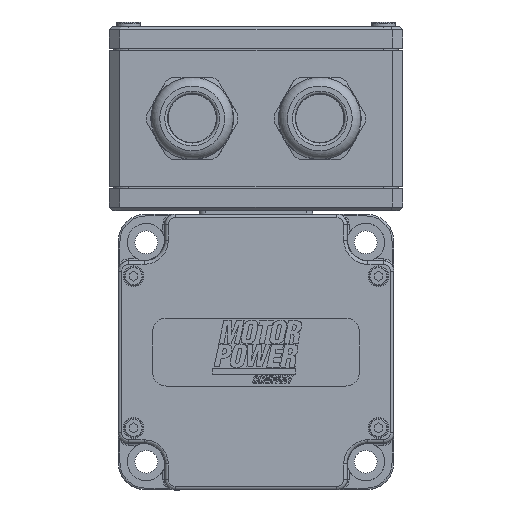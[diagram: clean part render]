
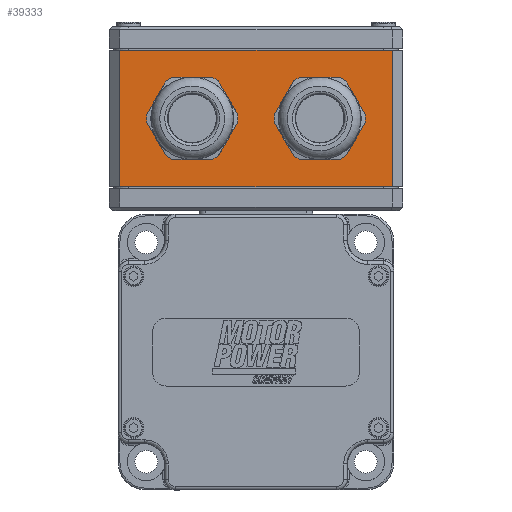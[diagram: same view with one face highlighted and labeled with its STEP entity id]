
A CAD part, front view. The second image highlights one B-rep face of the part: STEP entity #39333.
In plain terms, the highlighted planar face has unit normal (0, -1, 0) as drawn and (1, 0, 0) by its records, which use the part's own axes.
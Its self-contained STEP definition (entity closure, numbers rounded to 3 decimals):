
#2348=LINE('',#76260,#5572);
#2349=LINE('',#76263,#5573);
#2350=LINE('',#76265,#5574);
#2351=LINE('',#76267,#5575);
#5572=VECTOR('',#59659,1000.);
#5573=VECTOR('',#59660,1000.);
#5574=VECTOR('',#59661,1000.);
#5575=VECTOR('',#59662,1000.);
#8508=PLANE('',#53585);
#13732=ORIENTED_EDGE('',*,*,#23196,.T.);
#13733=ORIENTED_EDGE('',*,*,#23197,.T.);
#13734=ORIENTED_EDGE('',*,*,#23198,.T.);
#13735=ORIENTED_EDGE('',*,*,#23199,.T.);
#13736=ORIENTED_EDGE('',*,*,#23200,.F.);
#13737=ORIENTED_EDGE('',*,*,#23201,.T.);
#23196=EDGE_CURVE('',#28254,#28254,#31108,.F.);
#23197=EDGE_CURVE('',#28255,#28255,#31109,.F.);
#23198=EDGE_CURVE('',#28256,#28257,#2348,.T.);
#23199=EDGE_CURVE('',#28257,#28258,#2349,.T.);
#23200=EDGE_CURVE('',#28259,#28258,#2350,.T.);
#23201=EDGE_CURVE('',#28259,#28256,#2351,.T.);
#28254=VERTEX_POINT('',#76257);
#28255=VERTEX_POINT('',#76259);
#28256=VERTEX_POINT('',#76261);
#28257=VERTEX_POINT('',#76262);
#28258=VERTEX_POINT('',#76264);
#28259=VERTEX_POINT('',#76266);
#31108=CIRCLE('',#53586,10.625);
#31109=CIRCLE('',#53587,10.625);
#33282=EDGE_LOOP('',(#13732));
#33283=EDGE_LOOP('',(#13733));
#33284=EDGE_LOOP('',(#13734,#13735,#13736,#13737));
#36337=FACE_BOUND('',#33282,.T.);
#36338=FACE_BOUND('',#33283,.T.);
#36339=FACE_BOUND('',#33284,.T.);
#39333=ADVANCED_FACE('',(#36337,#36338,#36339),#8508,.F.);
#53585=AXIS2_PLACEMENT_3D('',#76255,#59653,#59654);
#53586=AXIS2_PLACEMENT_3D('',#76256,#59655,#59656);
#53587=AXIS2_PLACEMENT_3D('',#76258,#59657,#59658);
#59653=DIRECTION('',(-1.,0.,0.));
#59654=DIRECTION('',(0.,0.,1.));
#59655=DIRECTION('',(1.,0.,0.));
#59656=DIRECTION('',(0.,0.,-1.));
#59657=DIRECTION('',(1.,0.,0.));
#59658=DIRECTION('',(0.,0.,-1.));
#59659=DIRECTION('',(0.,1.,0.));
#59660=DIRECTION('',(0.,0.,1.));
#59661=DIRECTION('',(0.,1.,0.));
#59662=DIRECTION('',(0.,0.,-1.));
#76255=CARTESIAN_POINT('',(42.5,-42.5,39.5));
#76256=CARTESIAN_POINT('',(42.5,18.5,19.75));
#76257=CARTESIAN_POINT('',(42.5,18.5,9.125));
#76258=CARTESIAN_POINT('',(42.5,-18.5,19.75));
#76259=CARTESIAN_POINT('',(42.5,-18.5,9.125));
#76260=CARTESIAN_POINT('',(42.5,-42.5,0.));
#76261=CARTESIAN_POINT('',(42.5,-39.5,0.));
#76262=CARTESIAN_POINT('',(42.5,39.5,0.));
#76263=CARTESIAN_POINT('',(42.5,39.5,39.5));
#76264=CARTESIAN_POINT('',(42.5,39.5,39.5));
#76265=CARTESIAN_POINT('',(42.5,-42.5,39.5));
#76266=CARTESIAN_POINT('',(42.5,-39.5,39.5));
#76267=CARTESIAN_POINT('',(42.5,-39.5,39.5));
